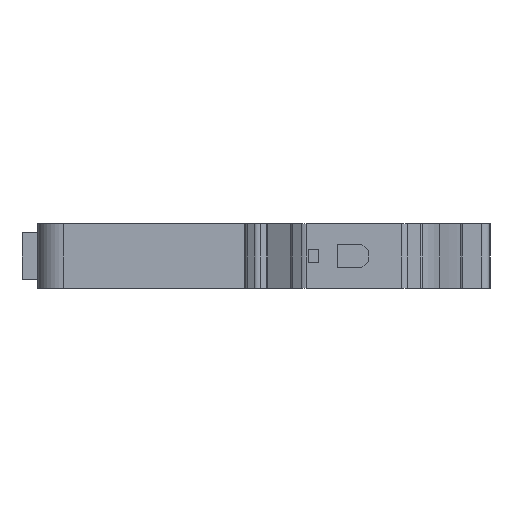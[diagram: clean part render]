
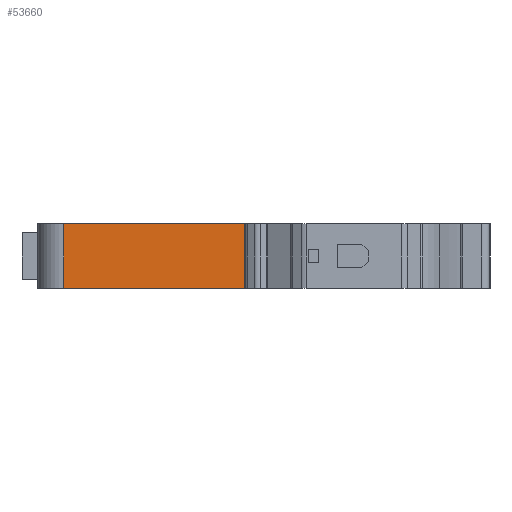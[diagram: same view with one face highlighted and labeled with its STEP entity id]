
A CAD part, left-side view. The second image highlights one B-rep face of the part: STEP entity #53660.
In plain terms, the highlighted planar face has unit normal (-1, 0, 0) as drawn and (0, -1, 0) by its records, which use the part's own axes.
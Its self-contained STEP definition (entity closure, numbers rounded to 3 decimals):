
#9060=CARTESIAN_POINT('',(6.15,-21.2,55.5));
#9070=VERTEX_POINT('',#9060);
#9100=CARTESIAN_POINT('',(-6.15,-21.2,55.5));
#9110=DIRECTION('',(1.,0.,0.));
#9120=VECTOR('',#9110,1.);
#9130=LINE('',#9100,#9120);
#9140=CARTESIAN_POINT('',(-6.15,-21.2,55.5));
#9150=VERTEX_POINT('',#9140);
#9160=EDGE_CURVE('',#9150,#9070,#9130,.T.);
#23410=CARTESIAN_POINT('',(6.15,-21.2,20.795));
#23420=VERTEX_POINT('',#23410);
#23450=CARTESIAN_POINT('',(6.15,-21.2,0.));
#23460=DIRECTION('',(0.,0.,1.));
#23470=VECTOR('',#23460,1.);
#23480=LINE('',#23450,#23470);
#23490=EDGE_CURVE('',#23420,#9070,#23480,.T.);
#47220=CARTESIAN_POINT('',(-6.15,-21.2,20.795));
#47230=VERTEX_POINT('',#47220);
#47260=CARTESIAN_POINT('',(0.,-21.2,20.795));
#47270=DIRECTION('',(-1.,0.,0.));
#47280=VECTOR('',#47270,1.);
#47290=LINE('',#47260,#47280);
#47300=EDGE_CURVE('',#23420,#47230,#47290,.T.);
#53500=CARTESIAN_POINT('',(-6.15,-21.2,21.));
#53510=DIRECTION('',(0.,-1.,0.));
#53520=DIRECTION('',(0.,0.,-1.));
#53530=AXIS2_PLACEMENT_3D('',#53500,#53510,#53520);
#53540=PLANE('',#53530);
#53550=ORIENTED_EDGE('',*,*,#47300,.F.);
#53560=CARTESIAN_POINT('',(-6.15,-21.2,0.));
#53570=DIRECTION('',(0.,0.,1.));
#53580=VECTOR('',#53570,1.);
#53590=LINE('',#53560,#53580);
#53600=EDGE_CURVE('',#47230,#9150,#53590,.T.);
#53610=ORIENTED_EDGE('',*,*,#53600,.F.);
#53620=ORIENTED_EDGE('',*,*,#9160,.F.);
#53630=ORIENTED_EDGE('',*,*,#23490,.T.);
#53640=EDGE_LOOP('',(#53630,#53620,#53610,#53550));
#53650=FACE_OUTER_BOUND('',#53640,.T.);
#53660=ADVANCED_FACE('',(#53650),#53540,.T.);
